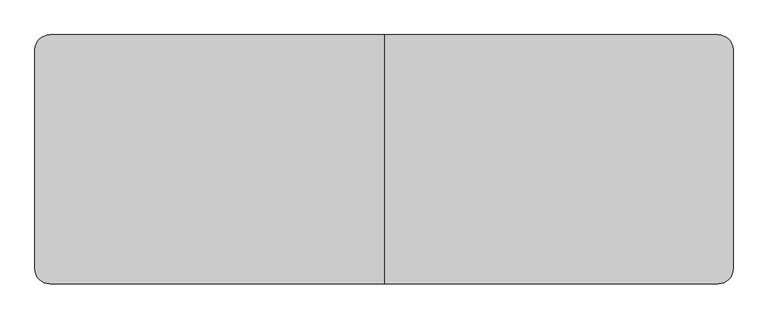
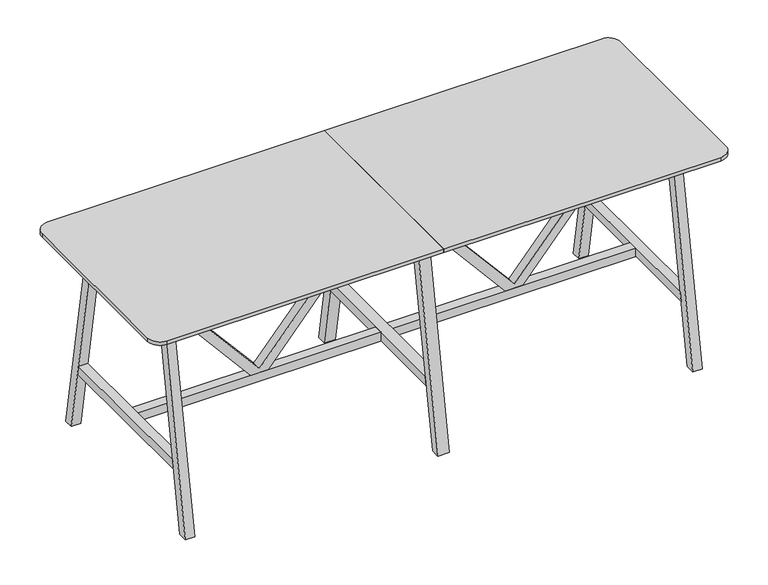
"""IFC4 building model written with IfcOpenShell, lengths in millimetres: furniture geometry, BDG_BossDesign_Tbls_AgentTables6Legs : AGE-HT-6L-2800-1000-3D."""

from ifc_helpers import new_model, si_unit, point, frame, frame_2d, origin, place, context, project, spatial, polyline, circle_curve, trimmed, segment, composite_curve, outline, extrude, source, transform, mapped, element, save


def furniture_fe8ec95c(model_context):
    return source(origin(), model_context, "Body", "SweptSolid", [
        extrude(outline(polyline([(345.0, 574.0823957), (345.0, 658.4176043), (992.0, 1205.0), (1032.0, 1205.0), (1032.0, 1185.0), (365.0, 616.25), (1032.0, 47.5), (1032.0, 27.5), (992.0, 27.5), (345.0, 574.0823957)])), frame((0.0, -22.5000305, 0.0), z_axis=(0.0, 1.0, 0.0), x_axis=(0.0, 0.0, 1.0)), (0.0, 0.0, 1.0), 45.000061),
        extrude(outline(polyline([(345.0, -574.0823957), (992.0, -27.5), (1032.0, -27.5), (1032.0, -47.5), (365.0, -616.25), (1032.0, -1185.0), (1032.0, -1205.0), (992.0, -1205.0), (345.0, -658.4176043), (345.0, -574.0823957)])), frame((0.0, -22.5000305, 0.0), z_axis=(0.0, 1.0, 0.0), x_axis=(0.0, 0.0, 1.0)), (0.0, 0.0, 1.0), 45.000061),
        extrude(outline(polyline([(500.0, 0.0), (454.9999949, 0.0), (285.5, 970.0), (330.5000051, 970.0), (500.0, 0.0)])), frame((-27.5, 0.0, 0.0), z_axis=(1.0, 0.0, 0.0), x_axis=(0.0, 1.0, 0.0)), (0.0, 0.0, 1.0), 55.0),
        extrude(outline(polyline([(-500.0, 0.0), (-330.5000051, 970.0), (-285.5, 970.0), (-454.9999949, 0.0), (-500.0, 0.0)])), frame((-27.5, 0.0, 0.0), z_axis=(1.0, 0.0, 0.0), x_axis=(0.0, 1.0, 0.0)), (0.0, 0.0, 1.0), 55.0),
        extrude(outline(polyline([(402.5773161, 300.0), (-402.5773161, 300.0), (-394.7139143, 345.0), (394.7139143, 345.0), (402.5773161, 300.0)])), frame((-27.5, 0.0, 0.0), z_axis=(1.0, 0.0, 0.0), x_axis=(0.0, 1.0, 0.0)), (0.0, 0.0, 1.0), 55.0),
        extrude(outline(composite_curve([segment(polyline([(0.0, 500.0), (0.0, -500.0), (-1340.0, -500.0)]), True, "CONTINUOUS"), segment(trimmed(circle_curve(frame_2d((-1340.0, -440.0)), 60.0), [point((-1340.0, -500.0))], [point((-1400.0, -440.0))], False, "CARTESIAN"), True, "CONTINUOUS"), segment(polyline([(-1400.0, -440.0), (-1400.0, 440.0)]), True, "CONTINUOUS"), segment(trimmed(circle_curve(frame_2d((-1340.0, 440.0)), 60.0), [point((-1400.0, 440.0))], [point((-1340.0, 500.0))], False, "CARTESIAN"), True, "CONTINUOUS"), segment(polyline([(-1340.0, 500.0), (0.0, 500.0)]), True, "CONTINUOUS")], self_intersect=False)), frame((0.0, 0.0, 1032.0), z_axis=(0.0, 0.0, 1.0), x_axis=(1.0, 0.0, 0.0)), (0.0, 0.0, 1.0), 18.0),
        extrude(outline(polyline([(-394.7139143, 345.0), (394.7139143, 345.0), (402.5773161, 300.0), (-402.5773161, 300.0), (-394.7139143, 345.0)])), frame((1205.0, 0.0, 0.0), z_axis=(1.0, 0.0, 0.0), x_axis=(0.0, 1.0, 0.0)), (0.0, 0.0, 1.0), 45.0),
        extrude(outline(polyline([(500.0, 0.0), (454.9999949, 0.0), (285.5, 970.0), (330.5000051, 970.0), (500.0, 0.0)])), frame((-1250.0, 0.0, 0.0), z_axis=(1.0, 0.0, 0.0), x_axis=(0.0, 1.0, 0.0)), (0.0, 0.0, 1.0), 45.0),
        extrude(outline(polyline([(-500.0, 0.0), (-330.5000051, 970.0), (-285.5, 970.0), (-454.9999949, 0.0), (-500.0, 0.0)])), frame((-1250.0, 0.0, 0.0), z_axis=(1.0, 0.0, 0.0), x_axis=(0.0, 1.0, 0.0)), (0.0, 0.0, 1.0), 45.0),
        extrude(outline(polyline([(-394.7139143, 345.0), (394.7139143, 345.0), (402.5773161, 300.0), (-402.5773161, 300.0), (-394.7139143, 345.0)])), frame((-1250.0, 0.0, 0.0), z_axis=(1.0, 0.0, 0.0), x_axis=(0.0, 1.0, 0.0)), (0.0, 0.0, 1.0), 45.0),
        extrude(outline(polyline([(-326.6006165, 944.973938), (-304.2770691, 1032.0), (-279.5, 1032.0), (-301.8235474, 944.973938), (-326.6006165, 944.973938)])), frame((-1205.0, 0.0, 0.0), z_axis=(1.0, 0.0, 0.0), x_axis=(0.0, 1.0, 0.0)), (0.0, 0.0, 1.0), 2410.0),
        extrude(outline(polyline([(326.6006165, 944.973938), (301.8235474, 944.973938), (279.5, 1032.0), (304.2770691, 1032.0), (326.6006165, 944.973938)])), frame((-1205.0, 0.0, 0.0), z_axis=(1.0, 0.0, 0.0), x_axis=(0.0, 1.0, 0.0)), (0.0, 0.0, 1.0), 2410.0),
        extrude(outline(polyline([(499.7999878, 0.0), (454.7999827, 0.0), (285.5, 970.0), (330.5000051, 970.0), (499.7999878, 0.0)])), frame((1205.0, 0.0, 0.0), z_axis=(1.0, 0.0, 0.0), x_axis=(0.0, 1.0, 0.0)), (0.0, 0.0, 1.0), 45.0),
        extrude(outline(polyline([(-499.7999878, 0.0), (-330.5000051, 970.0), (-285.5, 970.0), (-454.7999827, 0.0), (-499.7999878, 0.0)])), frame((1205.0, 0.0, 0.0), z_axis=(1.0, 0.0, 0.0), x_axis=(0.0, 1.0, 0.0)), (0.0, 0.0, 1.0), 45.0),
        extrude(outline(polyline([(-27.5, 22.5000305), (-27.5, -22.5000305), (-1205.0, -22.5000305), (-1205.0, 22.5000305), (-27.5, 22.5000305)])), frame((0.0, 0.0, 300.0), z_axis=(0.0, 0.0, 1.0), x_axis=(1.0, 0.0, 0.0)), (0.0, 0.0, 1.0), 45.0),
        extrude(outline(polyline([(27.5, -22.5000305), (27.5, 22.5000305), (1205.0, 22.5000305), (1205.0, -22.5000305), (27.5, -22.5000305)])), frame((0.0, 0.0, 300.0), z_axis=(0.0, 0.0, 1.0), x_axis=(1.0, 0.0, 0.0)), (0.0, 0.0, 1.0), 45.0),
        extrude(outline(composite_curve([segment(trimmed(circle_curve(frame_2d((1340.0, 440.0)), 60.0), [point((1340.0, 500.0))], [point((1400.0, 440.0))], False, "CARTESIAN"), True, "CONTINUOUS"), segment(polyline([(1400.0, 440.0), (1400.0, -440.0)]), True, "CONTINUOUS"), segment(trimmed(circle_curve(frame_2d((1340.0, -440.0)), 60.0), [point((1400.0, -440.0))], [point((1340.0, -500.0))], False, "CARTESIAN"), True, "CONTINUOUS"), segment(polyline([(1340.0, -500.0), (0.0, -500.0), (0.0, 500.0), (1340.0, 500.0)]), True, "CONTINUOUS")], self_intersect=False)), frame((0.0, 0.0, 1032.0), z_axis=(0.0, 0.0, 1.0), x_axis=(1.0, 0.0, 0.0)), (0.0, 0.0, 1.0), 18.0),
    ])


if __name__ == "__main__":
    model = new_model("IFC4")
    model_context = context("Model", 3, world=origin())
    ifc_project = project(units=[si_unit("LENGTHUNIT", "METRE", prefix="MILLI")], contexts=[model_context])
    site = spatial("IfcSite", under=ifc_project)
    building = spatial("IfcBuilding", under=site)
    placement = place(None, origin())
    furniture_shape = furniture_fe8ec95c(model_context)
    element("IfcFurniture", 1, ObjectType="BDG_BossDesign_Tbls_AgentTables6Legs : AGE-HT-6L-2800-1000-3D", at=placement, inside=building, context=model_context, shape_type="MappedRepresentation", body=[
        mapped(furniture_shape, transform((0.0, 0.0, 0.0), x_axis=(1.0, 0.0, 0.0), y_axis=(0.0, 1.0, 0.0), z_axis=(0.0, 0.0, 1.0))),
    ])
    save(model, "model.ifc")
